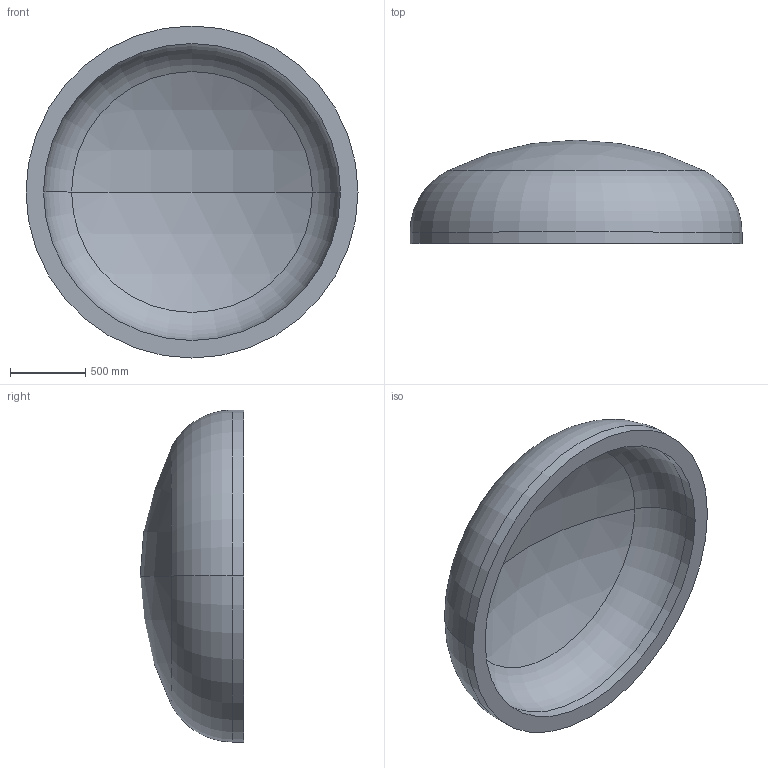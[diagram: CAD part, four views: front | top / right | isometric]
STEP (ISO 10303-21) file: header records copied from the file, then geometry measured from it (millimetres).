
FILE_DESCRIPTION (( 'STEP AP203' ), '1' );
FILE_NAME ('DIN 28013 Korbbogenform_-_Boden DIN 28013 - 2200 x 75 - I - s=116.step', '2016-07-01T14:58:54', ( '' ), ( '' ), 'SwSTEP 2.0', 'SolidWorks 2013', '' );
FILE_SCHEMA (( 'CONFIG_CONTROL_DESIGN' ));
Length unit declared in the file: millimetre
Products named in the file (1): DIN 28013 Korbbogenform_-_Boden DIN 28013 - 2200 x 75 - I - s=116
Bounding box: 2200 x 685.43 x 2200 mm (x, y, z)
Volume: 628166011.1 mm3; surface area: 11618088.8 mm2
Topology: 1 solids, 1 shells, 13 faces, 24 edges, 14 vertices
Faces by surface type: torus 4, cylinder 4, sphere 4, plane 1
Entity records: 407 total; most frequent: DIRECTION 72, CARTESIAN_POINT 52, ORIENTED_EDGE 48, AXIS2_PLACEMENT_3D 34, EDGE_CURVE 24, CIRCLE 20, VERTEX_POINT 14, EDGE_LOOP 14
